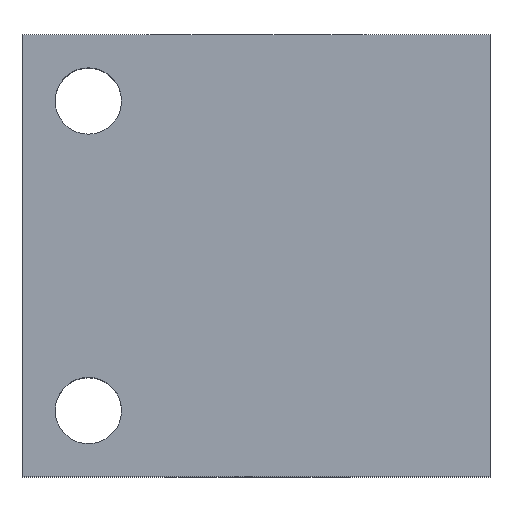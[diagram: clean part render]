
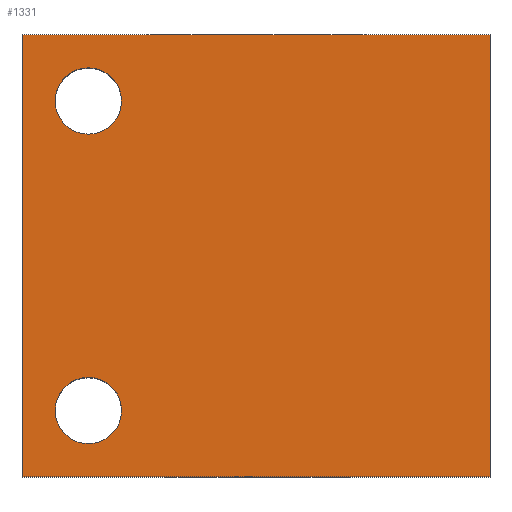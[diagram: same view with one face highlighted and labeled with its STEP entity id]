
A CAD part, top view. The second image highlights one B-rep face of the part: STEP entity #1331.
In plain terms, the highlighted planar face has unit normal (0, 0, 1).
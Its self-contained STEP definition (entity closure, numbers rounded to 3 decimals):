
#18=DIRECTION('',(0.,-1.,0.));
#19=VECTOR('',#18,60.);
#20=CARTESIAN_POINT('',(0.,60.,0.));
#21=LINE('',#20,#19);
#26=DIRECTION('',(-1.,0.,0.));
#27=VECTOR('',#26,63.5);
#28=CARTESIAN_POINT('',(63.5,60.,0.));
#29=LINE('',#28,#27);
#33=DIRECTION('',(0.,1.,0.));
#34=VECTOR('',#33,60.);
#35=CARTESIAN_POINT('',(63.5,0.,0.));
#36=LINE('',#35,#34);
#40=DIRECTION('',(1.,0.,0.));
#41=VECTOR('',#40,63.5);
#42=CARTESIAN_POINT('',(0.,0.,0.));
#43=LINE('',#42,#41);
#47=CARTESIAN_POINT('',(9.,9.,0.));
#48=DIRECTION('',(0.,0.,-1.));
#49=DIRECTION('',(-1.,0.,0.));
#50=AXIS2_PLACEMENT_3D('',#47,#48,#49);
#55=CARTESIAN_POINT('',(9.,9.,0.));
#56=DIRECTION('',(0.,0.,-1.));
#57=DIRECTION('',(1.,0.,0.));
#58=AXIS2_PLACEMENT_3D('',#55,#56,#57);
#63=CARTESIAN_POINT('',(9.,51.,0.));
#64=DIRECTION('',(0.,0.,-1.));
#65=DIRECTION('',(-1.,0.,0.));
#66=AXIS2_PLACEMENT_3D('',#63,#64,#65);
#71=CARTESIAN_POINT('',(9.,51.,0.));
#72=DIRECTION('',(0.,0.,-1.));
#73=DIRECTION('',(1.,0.,0.));
#74=AXIS2_PLACEMENT_3D('',#71,#72,#73);
#1155=CARTESIAN_POINT('',(0.,60.,0.));
#1156=CARTESIAN_POINT('',(0.,0.,0.));
#1157=VERTEX_POINT('',#1155);
#1158=VERTEX_POINT('',#1156);
#1159=CARTESIAN_POINT('',(63.5,0.,0.));
#1160=VERTEX_POINT('',#1159);
#1161=CARTESIAN_POINT('',(63.5,60.,0.));
#1162=VERTEX_POINT('',#1161);
#1171=CARTESIAN_POINT('',(4.5,9.,0.));
#1172=CARTESIAN_POINT('',(13.5,9.,0.));
#1173=VERTEX_POINT('',#1171);
#1174=VERTEX_POINT('',#1172);
#1179=CARTESIAN_POINT('',(4.5,51.,0.));
#1180=CARTESIAN_POINT('',(13.5,51.,0.));
#1181=VERTEX_POINT('',#1179);
#1182=VERTEX_POINT('',#1180);
#1304=CARTESIAN_POINT('',(0.,0.,0.));
#1305=DIRECTION('',(0.,0.,1.));
#1306=DIRECTION('',(1.,0.,0.));
#1307=AXIS2_PLACEMENT_3D('',#1304,#1305,#1306);
#1308=PLANE('',#1307);
#1310=ORIENTED_EDGE('',*,*,#1309,.F.);
#1312=ORIENTED_EDGE('',*,*,#1311,.F.);
#1314=ORIENTED_EDGE('',*,*,#1313,.F.);
#1316=ORIENTED_EDGE('',*,*,#1315,.F.);
#1317=EDGE_LOOP('',(#1310,#1312,#1314,#1316));
#1318=FACE_OUTER_BOUND('',#1317,.F.);
#1320=ORIENTED_EDGE('',*,*,#1319,.F.);
#1322=ORIENTED_EDGE('',*,*,#1321,.F.);
#1323=EDGE_LOOP('',(#1320,#1322));
#1324=FACE_BOUND('',#1323,.F.);
#1326=ORIENTED_EDGE('',*,*,#1325,.F.);
#1328=ORIENTED_EDGE('',*,*,#1327,.F.);
#1329=EDGE_LOOP('',(#1326,#1328));
#1330=FACE_BOUND('',#1329,.F.);
#51=CIRCLE('',#50,4.5);
#59=CIRCLE('',#58,4.5);
#67=CIRCLE('',#66,4.5);
#75=CIRCLE('',#74,4.5);
#1309=EDGE_CURVE('',#1157,#1158,#21,.T.);
#1311=EDGE_CURVE('',#1162,#1157,#29,.T.);
#1313=EDGE_CURVE('',#1160,#1162,#36,.T.);
#1315=EDGE_CURVE('',#1158,#1160,#43,.T.);
#1319=EDGE_CURVE('',#1173,#1174,#51,.T.);
#1321=EDGE_CURVE('',#1174,#1173,#59,.T.);
#1325=EDGE_CURVE('',#1181,#1182,#67,.T.);
#1327=EDGE_CURVE('',#1182,#1181,#75,.T.);
#1331=ADVANCED_FACE('',(#1318,#1324,#1330),#1308,.T.);
